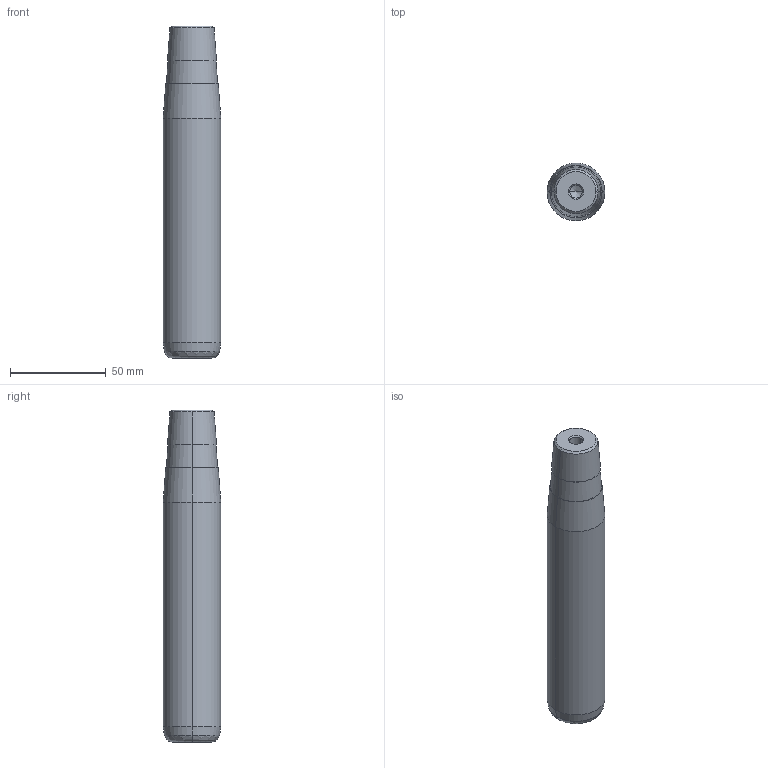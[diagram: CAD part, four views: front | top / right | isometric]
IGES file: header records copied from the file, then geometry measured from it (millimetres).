
Start section: START RECORD GO HERE.
Global section: file name: 722-30x140x173.igs; native system: DASSAULT SYSTEMES CATIA V5 R20 - www.3ds.com; preprocessor: CATIA Version 5 Release 20 ; author: Utente; organization: NB04-ASUS; date: 20210108.172013; units: millimetre
Bounding box: 30 x 30 x 173 mm (x, y, z)
Surface area: 17720.4 mm2 (no closed solid volume)
Topology: 0 solids, 0 shells, 32 faces, 128 edges, 124 vertices
Faces by surface type: revolution 30, plane 2
